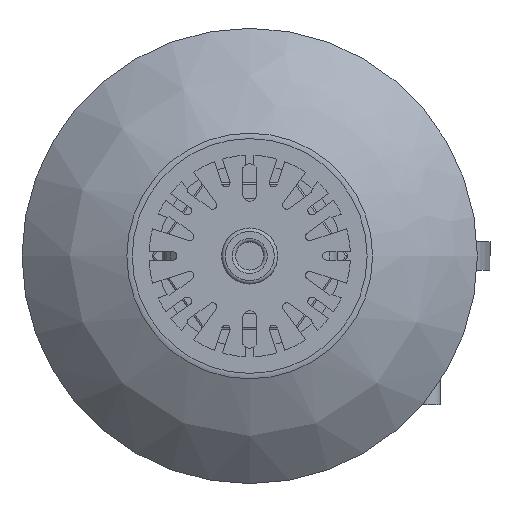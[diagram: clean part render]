
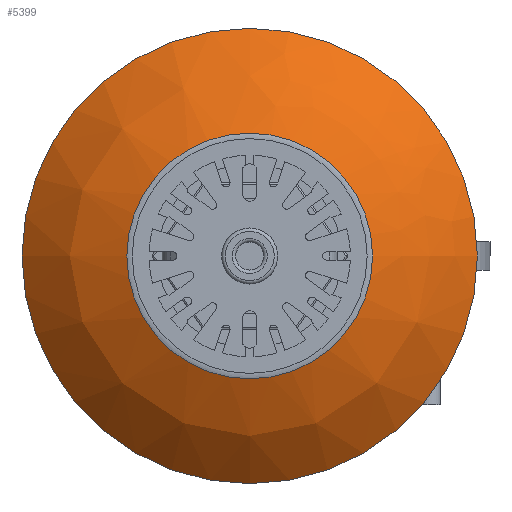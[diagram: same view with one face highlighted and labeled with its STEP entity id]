
A CAD part, front view. The second image highlights one B-rep face of the part: STEP entity #5399.
In plain terms, the highlighted free-form (B-spline) face has degree [2, 2] with [3, 9] control points.
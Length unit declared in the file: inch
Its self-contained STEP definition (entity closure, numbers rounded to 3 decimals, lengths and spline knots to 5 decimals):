
#1069=(
BOUNDED_SURFACE()
B_SPLINE_SURFACE(2,2,((#8076,#8077,#8078,#8079,#8080,#8081,#8082,#8083,
#8084),(#8085,#8086,#8087,#8088,#8089,#8090,#8091,#8092,#8093),(#8094,#8095,
#8096,#8097,#8098,#8099,#8100,#8101,#8102)),.UNSPECIFIED.,.F.,.T.,.F.)
B_SPLINE_SURFACE_WITH_KNOTS((3,3),(3,2,2,2,3),(-1.25422,-0.72061),
(-3.14159,-1.5708,0.,1.5708,3.14159),
 .UNSPECIFIED.)
GEOMETRIC_REPRESENTATION_ITEM()
RATIONAL_B_SPLINE_SURFACE(((1.,0.707,1.,0.707,1.,
0.707,1.,0.707,1.),(0.965,0.682,
0.965,0.682,0.965,0.682,
0.965,0.682,0.965),(1.,0.707,
1.,0.707,1.,0.707,1.,0.707,1.)))
REPRESENTATION_ITEM('')
SURFACE()
);
#1244=FACE_OUTER_BOUND('',#1539,.T.);
#1539=EDGE_LOOP('',(#3511,#3512,#3513,#3514,#3515,#3516));
#1861=CIRCLE('',#5791,0.87685);
#1862=CIRCLE('',#5792,0.87685);
#1864=CIRCLE('',#5794,1.625);
#1865=CIRCLE('',#5795,1.625);
#1866=CIRCLE('',#5796,1.7);
#2178=VERTEX_POINT('',#8071);
#2179=VERTEX_POINT('',#8072);
#2180=VERTEX_POINT('',#8103);
#2181=VERTEX_POINT('',#8104);
#2705=EDGE_CURVE('',#2178,#2179,#1861,.T.);
#2706=EDGE_CURVE('',#2179,#2178,#1862,.T.);
#2708=EDGE_CURVE('',#2180,#2181,#1864,.T.);
#2709=EDGE_CURVE('',#2181,#2180,#1865,.T.);
#2710=EDGE_CURVE('',#2181,#2179,#1866,.T.);
#3511=ORIENTED_EDGE('',*,*,#2708,.F.);
#3512=ORIENTED_EDGE('',*,*,#2709,.F.);
#3513=ORIENTED_EDGE('',*,*,#2710,.T.);
#3514=ORIENTED_EDGE('',*,*,#2706,.T.);
#3515=ORIENTED_EDGE('',*,*,#2705,.T.);
#3516=ORIENTED_EDGE('',*,*,#2710,.F.);
#5399=ADVANCED_FACE('',(#1244),#1069,.F.);
#5791=AXIS2_PLACEMENT_3D('',#8073,#6420,#6421);
#5792=AXIS2_PLACEMENT_3D('',#8074,#6422,#6423);
#5794=AXIS2_PLACEMENT_3D('',#8105,#6426,#6427);
#5795=AXIS2_PLACEMENT_3D('',#8106,#6428,#6429);
#5796=AXIS2_PLACEMENT_3D('',#8107,#6430,#6431);
#6420=DIRECTION('center_axis',(0.,1.,0.));
#6421=DIRECTION('ref_axis',(1.,0.,0.));
#6422=DIRECTION('center_axis',(0.,1.,0.));
#6423=DIRECTION('ref_axis',(1.,0.,0.));
#6426=DIRECTION('center_axis',(0.,1.,0.));
#6427=DIRECTION('ref_axis',(1.,0.,0.));
#6428=DIRECTION('center_axis',(0.,1.,0.));
#6429=DIRECTION('ref_axis',(1.,0.,0.));
#6430=DIRECTION('center_axis',(0.,0.,
1.));
#6431=DIRECTION('ref_axis',(-1.,0.,0.));
#8071=CARTESIAN_POINT('',(0.87685,2.05621,0.));
#8072=CARTESIAN_POINT('',(-0.87685,2.05621,0.));
#8073=CARTESIAN_POINT('Origin',(0.,2.05621,0.));
#8074=CARTESIAN_POINT('Origin',(0.,2.05621,0.));
#8076=CARTESIAN_POINT('Ctrl Pts',(-0.87685,2.05621,0.));
#8077=CARTESIAN_POINT('Ctrl Pts',(-0.87685,2.05621,0.87685));
#8078=CARTESIAN_POINT('Ctrl Pts',(0.,2.05621,
0.87685));
#8079=CARTESIAN_POINT('Ctrl Pts',(0.87685,2.05621,0.87685));
#8080=CARTESIAN_POINT('Ctrl Pts',(0.87685,2.05621,0.));
#8081=CARTESIAN_POINT('Ctrl Pts',(0.87685,2.05621,-0.87685));
#8082=CARTESIAN_POINT('Ctrl Pts',(0.,2.05621,
-0.87685));
#8083=CARTESIAN_POINT('Ctrl Pts',(-0.87685,2.05621,-0.87685));
#8084=CARTESIAN_POINT('Ctrl Pts',(-0.87685,2.05621,0.));
#8085=CARTESIAN_POINT('Ctrl Pts',(-1.31841,2.20086,0.));
#8086=CARTESIAN_POINT('Ctrl Pts',(-1.31841,2.20086,1.31841));
#8087=CARTESIAN_POINT('Ctrl Pts',(0.,2.20086,
1.31841));
#8088=CARTESIAN_POINT('Ctrl Pts',(1.31841,2.20086,1.31841));
#8089=CARTESIAN_POINT('Ctrl Pts',(1.31841,2.20086,0.));
#8090=CARTESIAN_POINT('Ctrl Pts',(1.31841,2.20086,-1.31841));
#8091=CARTESIAN_POINT('Ctrl Pts',(0.,2.20086,
-1.31841));
#8092=CARTESIAN_POINT('Ctrl Pts',(-1.31841,2.20086,-1.31841));
#8093=CARTESIAN_POINT('Ctrl Pts',(-1.31841,2.20086,0.));
#8094=CARTESIAN_POINT('Ctrl Pts',(-1.625,2.55,0.));
#8095=CARTESIAN_POINT('Ctrl Pts',(-1.625,2.55,1.625));
#8096=CARTESIAN_POINT('Ctrl Pts',(0.,2.55,1.625));
#8097=CARTESIAN_POINT('Ctrl Pts',(1.625,2.55,1.625));
#8098=CARTESIAN_POINT('Ctrl Pts',(1.625,2.55,0.));
#8099=CARTESIAN_POINT('Ctrl Pts',(1.625,2.55,-1.625));
#8100=CARTESIAN_POINT('Ctrl Pts',(0.,2.55,-1.625));
#8101=CARTESIAN_POINT('Ctrl Pts',(-1.625,2.55,-1.625));
#8102=CARTESIAN_POINT('Ctrl Pts',(-1.625,2.55,0.));
#8103=CARTESIAN_POINT('',(1.625,2.55,0.));
#8104=CARTESIAN_POINT('',(-1.625,2.55,0.));
#8105=CARTESIAN_POINT('Origin',(0.,2.55,0.));
#8106=CARTESIAN_POINT('Origin',(0.,2.55,0.));
#8107=CARTESIAN_POINT('Origin',(-0.34761,3.67173,0.));
